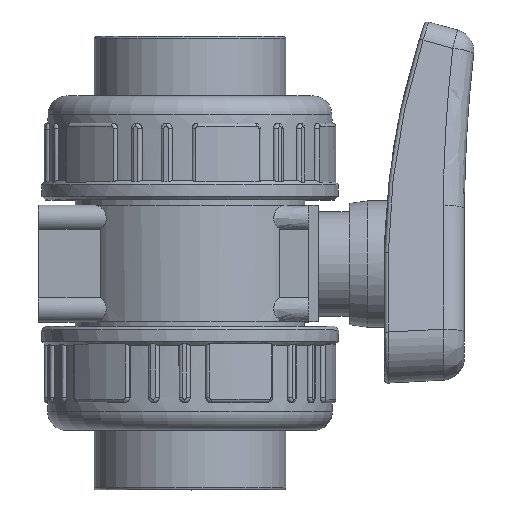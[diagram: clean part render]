
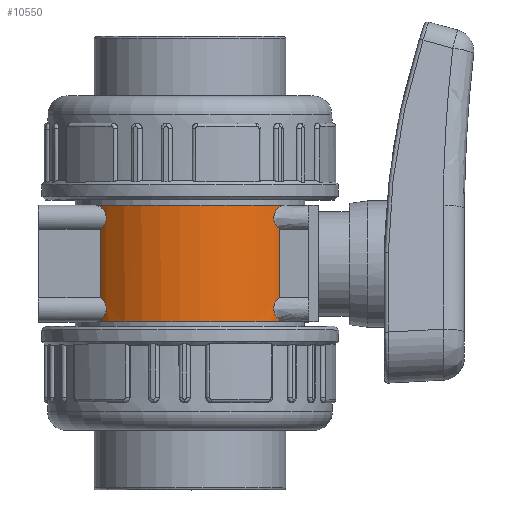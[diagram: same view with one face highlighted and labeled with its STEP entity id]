
A CAD part, top view. The second image highlights one B-rep face of the part: STEP entity #10550.
In plain terms, the highlighted cylindrical face has radius 31.85 mm (diameter 63.7 mm), a partial arc.
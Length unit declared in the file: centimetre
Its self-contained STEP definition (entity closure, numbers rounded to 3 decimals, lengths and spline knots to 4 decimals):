
#450=B_SPLINE_CURVE_WITH_KNOTS('',3,(#39327,#39328,#39329,#39330,#39331,
#39332,#39333,#39334,#39335,#39336,#39337,#39338,#39339,#39340,#39341,#39342),
 .UNSPECIFIED.,.F.,.F.,(4,2,2,2,2,2,2,4),(0.,0.216,0.3891,
0.5215,0.6338,0.7432,0.8674,
1.0472),.UNSPECIFIED.);
#451=B_SPLINE_CURVE_WITH_KNOTS('',3,(#39384,#39385,#39386,#39387,#39388,
#39389,#39390,#39391,#39392,#39393,#39394,#39395,#39396,#39397,#39398,#39399,
#39400,#39401),.UNSPECIFIED.,.F.,.F.,(4,2,2,2,2,2,2,2,4),(0.,0.1819,
0.3181,0.4314,0.5401,0.6602,
0.8152,0.9729,1.1275),.UNSPECIFIED.);
#461=B_SPLINE_CURVE_WITH_KNOTS('',3,(#39741,#39742,#39743,#39744,#39745,
#39746,#39747,#39748,#39749,#39750,#39751,#39752,#39753,#39754,#39755,#39756,
#39757),.UNSPECIFIED.,.F.,.F.,(4,2,2,3,2,2,2,4),(-0.3797,-0.2646,
-0.1323,0.,0.1323,0.2646,0.4387,
0.5566),.UNSPECIFIED.);
#473=B_SPLINE_CURVE_WITH_KNOTS('',3,(#40026,#40027,#40028,#40029,#40030,
#40031,#40032,#40033,#40034,#40035,#40036,#40037,#40038,#40039,#40040,#40041,
#40042),.UNSPECIFIED.,.F.,.F.,(4,2,2,2,3,2,2,4),(-0.6129,-0.4387,
-0.2646,-0.1323,0.,0.1323,0.2646,
0.3797),.UNSPECIFIED.);
#920=LINE('',#39347,#1488);
#976=LINE('',#40045,#1544);
#1488=VECTOR('',#13137,1.8492);
#1544=VECTOR('',#13479,1.8492);
#1892=CYLINDRICAL_SURFACE('',#11449,3.185);
#2447=FACE_OUTER_BOUND('',#3127,.T.);
#3127=EDGE_LOOP('',(#8214,#8215,#8216,#8217,#8218,#8219,#8220,#8221));
#3717=CIRCLE('',#11447,3.185);
#3719=CIRCLE('',#11450,3.185);
#4419=VERTEX_POINT('',#39324);
#4420=VERTEX_POINT('',#39326);
#4421=VERTEX_POINT('',#39345);
#4422=VERTEX_POINT('',#39382);
#4482=VERTEX_POINT('',#39738);
#4483=VERTEX_POINT('',#39740);
#4518=VERTEX_POINT('',#40023);
#4519=VERTEX_POINT('',#40025);
#5648=EDGE_CURVE('',#4420,#4419,#450,.T.);
#5651=EDGE_CURVE('',#4419,#4421,#920,.T.);
#5653=EDGE_CURVE('',#4421,#4422,#451,.T.);
#5728=EDGE_CURVE('',#4483,#4482,#461,.T.);
#5802=EDGE_CURVE('',#4519,#4518,#473,.T.);
#5804=EDGE_CURVE('',#4518,#4483,#976,.T.);
#5812=EDGE_CURVE('',#4422,#4519,#3717,.T.);
#5814=EDGE_CURVE('',#4420,#4482,#3719,.T.);
#8214=ORIENTED_EDGE('',*,*,#5653,.T.);
#8215=ORIENTED_EDGE('',*,*,#5812,.T.);
#8216=ORIENTED_EDGE('',*,*,#5802,.T.);
#8217=ORIENTED_EDGE('',*,*,#5804,.T.);
#8218=ORIENTED_EDGE('',*,*,#5728,.T.);
#8219=ORIENTED_EDGE('',*,*,#5814,.F.);
#8220=ORIENTED_EDGE('',*,*,#5648,.T.);
#8221=ORIENTED_EDGE('',*,*,#5651,.T.);
#10550=ADVANCED_FACE('',(#2447),#1892,.T.);
#11447=AXIS2_PLACEMENT_3D('',#40061,#13501,#13502);
#11449=AXIS2_PLACEMENT_3D('',#40064,#13505,#13506);
#11450=AXIS2_PLACEMENT_3D('',#40065,#13507,#13508);
#13137=DIRECTION('',(0.,1.,0.));
#13479=DIRECTION('',(0.,-1.,0.));
#13501=DIRECTION('center_axis',(0.,-1.,0.));
#13502=DIRECTION('ref_axis',(1.,0.,0.));
#13505=DIRECTION('center_axis',(0.,-1.,0.));
#13506=DIRECTION('ref_axis',(-1.,0.,0.));
#13507=DIRECTION('center_axis',(0.,-1.,0.));
#13508=DIRECTION('ref_axis',(1.,0.,0.));
#39324=CARTESIAN_POINT('',(2.4074,-0.9361,2.0853));
#39326=CARTESIAN_POINT('',(2.5216,-1.58,1.9457));
#39327=CARTESIAN_POINT('Ctrl Pts',(2.5216,-1.58,1.9457));
#39328=CARTESIAN_POINT('Ctrl Pts',(2.4778,-1.5725,2.0024));
#39329=CARTESIAN_POINT('Ctrl Pts',(2.4325,-1.5512,2.057));
#39330=CARTESIAN_POINT('Ctrl Pts',(2.3574,-1.4899,2.1422));
#39331=CARTESIAN_POINT('Ctrl Pts',(2.3276,-1.4554,2.1743));
#39332=CARTESIAN_POINT('Ctrl Pts',(2.2866,-1.3851,2.2173));
#39333=CARTESIAN_POINT('Ctrl Pts',(2.2722,-1.3505,2.232));
#39334=CARTESIAN_POINT('Ctrl Pts',(2.256,-1.2806,2.2483));
#39335=CARTESIAN_POINT('Ctrl Pts',(2.2529,-1.2473,2.2513));
#39336=CARTESIAN_POINT('Ctrl Pts',(2.2566,-1.1809,2.2477));
#39337=CARTESIAN_POINT('Ctrl Pts',(2.263,-1.1493,2.2413));
#39338=CARTESIAN_POINT('Ctrl Pts',(2.2843,-1.086,2.2196));
#39339=CARTESIAN_POINT('Ctrl Pts',(2.2999,-1.0556,2.2035));
#39340=CARTESIAN_POINT('Ctrl Pts',(2.344,-0.9903,
2.1567));
#39341=CARTESIAN_POINT('Ctrl Pts',(2.3752,-0.9593,2.1225));
#39342=CARTESIAN_POINT('Ctrl Pts',(2.4074,-0.9361,
2.0853));
#39345=CARTESIAN_POINT('',(2.4074,0.9131,2.0853));
#39347=CARTESIAN_POINT('',(2.4074,-0.01,2.0853));
#39382=CARTESIAN_POINT('',(2.5562,1.56,1.9));
#39384=CARTESIAN_POINT('Ctrl Pts',(2.4074,0.9131,2.0853));
#39385=CARTESIAN_POINT('Ctrl Pts',(2.3715,0.939,2.1268));
#39386=CARTESIAN_POINT('Ctrl Pts',(2.3389,0.9731,2.1622));
#39387=CARTESIAN_POINT('Ctrl Pts',(2.2937,1.0434,2.2099));
#39388=CARTESIAN_POINT('Ctrl Pts',(2.2775,1.0779,2.2266));
#39389=CARTESIAN_POINT('Ctrl Pts',(2.2582,1.1481,2.2461));
#39390=CARTESIAN_POINT('Ctrl Pts',(2.2538,1.1815,2.2505));
#39391=CARTESIAN_POINT('Ctrl Pts',(2.2548,1.2485,2.2494));
#39392=CARTESIAN_POINT('Ctrl Pts',(2.26,1.2804,2.2443));
#39393=CARTESIAN_POINT('Ctrl Pts',(2.2788,1.3441,2.2252));
#39394=CARTESIAN_POINT('Ctrl Pts',(2.2931,1.3745,2.2106));
#39395=CARTESIAN_POINT('Ctrl Pts',(2.3314,1.4363,2.1702));
#39396=CARTESIAN_POINT('Ctrl Pts',(2.3572,1.4655,2.1423));
#39397=CARTESIAN_POINT('Ctrl Pts',(2.4119,1.5123,2.0806));
#39398=CARTESIAN_POINT('Ctrl Pts',(2.4412,1.5303,2.0462));
#39399=CARTESIAN_POINT('Ctrl Pts',(2.4992,1.5539,1.9749));
#39400=CARTESIAN_POINT('Ctrl Pts',(2.5282,1.56,1.9377));
#39401=CARTESIAN_POINT('Ctrl Pts',(2.5562,1.56,1.9));
#39738=CARTESIAN_POINT('',(-2.5216,-1.58,1.9457));
#39740=CARTESIAN_POINT('',(-2.4074,-0.9361,2.0853));
#39741=CARTESIAN_POINT('Ctrl Pts',(-2.4074,-0.9361,
2.0853));
#39742=CARTESIAN_POINT('Ctrl Pts',(-2.3833,-0.9535,
2.1131));
#39743=CARTESIAN_POINT('Ctrl Pts',(-2.3604,-0.9748,
2.1386));
#39744=CARTESIAN_POINT('Ctrl Pts',(-2.3171,-1.0271,
2.1855));
#39745=CARTESIAN_POINT('Ctrl Pts',(-2.2947,-1.0627,2.2089));
#39746=CARTESIAN_POINT('Ctrl Pts',(-2.2632,-1.1436,
2.2412));
#39747=CARTESIAN_POINT('Ctrl Pts',(-2.2543,-1.1889,
2.25));
#39748=CARTESIAN_POINT('Ctrl Pts',(-2.2543,-1.233,2.25));
#39749=CARTESIAN_POINT('Ctrl Pts',(-2.2543,-1.2771,
2.25));
#39750=CARTESIAN_POINT('Ctrl Pts',(-2.2632,-1.3224,
2.2412));
#39751=CARTESIAN_POINT('Ctrl Pts',(-2.2947,-1.4033,2.2089));
#39752=CARTESIAN_POINT('Ctrl Pts',(-2.3171,-1.4389,
2.1855));
#39753=CARTESIAN_POINT('Ctrl Pts',(-2.3707,-1.5036,
2.1274));
#39754=CARTESIAN_POINT('Ctrl Pts',(-2.4075,-1.5335,
2.0861));
#39755=CARTESIAN_POINT('Ctrl Pts',(-2.4708,-1.5669,
2.0103));
#39756=CARTESIAN_POINT('Ctrl Pts',(-2.4967,-1.5758,
1.9779));
#39757=CARTESIAN_POINT('Ctrl Pts',(-2.5216,-1.58,1.9457));
#40023=CARTESIAN_POINT('',(-2.4074,0.9131,2.0853));
#40025=CARTESIAN_POINT('',(-2.5562,1.56,1.9));
#40026=CARTESIAN_POINT('Ctrl Pts',(-2.5562,1.56,1.9));
#40027=CARTESIAN_POINT('Ctrl Pts',(-2.5216,1.56,1.9466));
#40028=CARTESIAN_POINT('Ctrl Pts',(-2.4829,1.5503,1.9957));
#40029=CARTESIAN_POINT('Ctrl Pts',(-2.4075,1.5105,2.0861));
#40030=CARTESIAN_POINT('Ctrl Pts',(-2.3707,1.4806,2.1274));
#40031=CARTESIAN_POINT('Ctrl Pts',(-2.3171,1.4159,2.1855));
#40032=CARTESIAN_POINT('Ctrl Pts',(-2.2947,1.3803,2.2089));
#40033=CARTESIAN_POINT('Ctrl Pts',(-2.2632,1.2994,2.2412));
#40034=CARTESIAN_POINT('Ctrl Pts',(-2.2543,1.2541,2.25));
#40035=CARTESIAN_POINT('Ctrl Pts',(-2.2543,1.21,2.25));
#40036=CARTESIAN_POINT('Ctrl Pts',(-2.2543,1.1659,2.25));
#40037=CARTESIAN_POINT('Ctrl Pts',(-2.2632,1.1206,2.2412));
#40038=CARTESIAN_POINT('Ctrl Pts',(-2.2947,1.0397,2.2089));
#40039=CARTESIAN_POINT('Ctrl Pts',(-2.3171,1.0041,2.1855));
#40040=CARTESIAN_POINT('Ctrl Pts',(-2.3604,0.9518,
2.1386));
#40041=CARTESIAN_POINT('Ctrl Pts',(-2.3833,0.9305,
2.1131));
#40042=CARTESIAN_POINT('Ctrl Pts',(-2.4074,0.9131,
2.0853));
#40045=CARTESIAN_POINT('',(-2.4074,-0.01,2.0853));
#40061=CARTESIAN_POINT('Origin',(0.,1.56,0.));
#40064=CARTESIAN_POINT('Origin',(0.,-0.01,
0.));
#40065=CARTESIAN_POINT('Origin',(0.,-1.58,0.));
